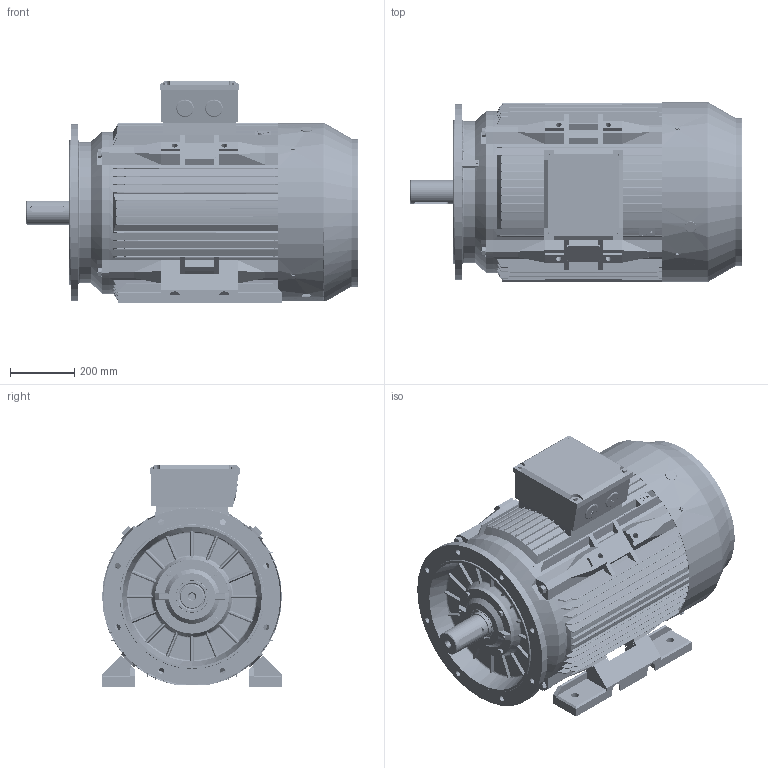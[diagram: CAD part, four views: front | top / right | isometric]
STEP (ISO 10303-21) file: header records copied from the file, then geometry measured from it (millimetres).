
FILE_DESCRIPTION (( 'STEP AP203' ), '1' );
FILE_NAME ('TC 280M B35 外形图.STEP', '2013-02-28T07:31:48', ( '微软用户' ), ( '微软中国' ), 'SwSTEP 2.0', 'SolidWorks 2008', '' );
FILE_SCHEMA (( 'CONFIG_CONTROL_DESIGN' ));
Products named in the file (23): TC280 B3后端盖(170)_默认; TC 280 轴承外盖DE_默认; 油封80-100-10_默认; TC280M底脚_默认; 16_默认; M10-80_默认; 10_默认; 铜油嘴_默认; TC 280 B5法兰_默认; TC 280M B35 俋倛芞; TC 280M B5机座_默认; TC 280 轴承外盖NDE_默认; TC 280-4 转子_默认; TC 280-4P转轴_默认; 6316_默认; TC 280M接线盒座_默认; TC 280M接线盒盖_默认; TC 280 风罩_默认; M16-50_默认; M8-12_默认; M8-20_默认; 螺塞M50_默认; 扣塞_默认
Assembly tree (43 placements, depth 3):
  TC 280M B35 俋倛芞
    TC 280 B5法兰_默认
    M8-12_默认  x4
    M10-80_默认  x4
    10_默认  x4
    螺塞M50_默认  x2
    TC 280M接线盒座_默认
    M8-20_默认  x4
    铜油嘴_默认
    TC 280 轴承外盖DE_默认
    TC280M底脚_默认  x2
    TC 280M接线盒盖_默认
    M16-50_默认  x4
    TC 280M B5机座_默认
    TC 280-4 转子_默认
      TC 280-4P转轴_默认
      6316_默认  x2
    16_默认  x4
    油封80-100-10_默认
    TC 280 轴承外盖NDE_默认
    扣塞_默认
    TC280 B3后端盖(170)_默认
    TC 280 风罩_默认
Bounding box: 1032.2 x 559 x 688.14 mm (x, y, z)
Volume: 41450675.4 mm3; surface area: 7486600.1 mm2
Topology: 43 solids, 44 shells, 9953 faces, 29204 edges, 19333 vertices
Faces by surface type: plane 4984, cylinder 4263, cone 298, torus 231, bspline 115, sphere 62
Entity records: 333183 total; most frequent: CARTESIAN_POINT 73438, ORIENTED_EDGE 54706, DIRECTION 53037, EDGE_CURVE 27353, VERTEX_POINT 18148, AXIS2_PLACEMENT_3D 18051, VECTOR 16935, LINE 16935
